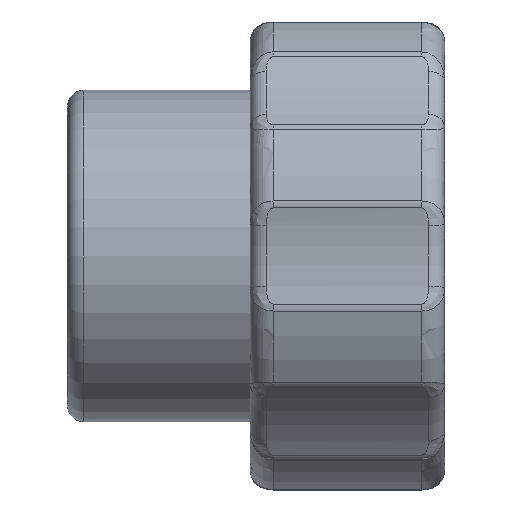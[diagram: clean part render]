
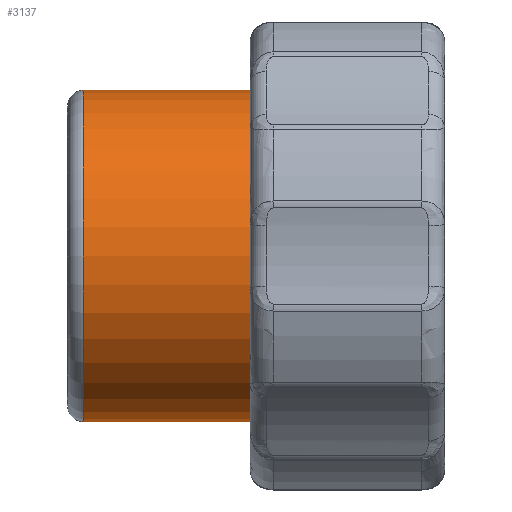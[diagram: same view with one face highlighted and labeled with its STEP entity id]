
A CAD part, left-side view. The second image highlights one B-rep face of the part: STEP entity #3137.
In plain terms, the highlighted cylindrical face has radius 7.25 mm (diameter 14.5 mm), a partial arc.
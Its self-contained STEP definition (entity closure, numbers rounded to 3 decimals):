
#545 = DIRECTION ( 'NONE',  ( 0., -1., 0. ) ) ;
#695 = LINE ( 'NONE', #3204, #3327 ) ;
#726 = CARTESIAN_POINT ( 'NONE',  ( 0., 2., -7.25 ) ) ;
#728 = CARTESIAN_POINT ( 'NONE',  ( 0., 2., 0. ) ) ;
#831 = CARTESIAN_POINT ( 'NONE',  ( 0., 2., 7.25 ) ) ;
#1460 = CARTESIAN_POINT ( 'NONE',  ( 0., 15.8, 0. ) ) ;
#1466 = EDGE_CURVE ( 'NONE', #5674, #2244, #4747, .T. ) ;
#1666 = FACE_OUTER_BOUND ( 'NONE', #1830, .T. ) ;
#1695 = EDGE_CURVE ( 'NONE', #2241, #6319, #3569, .T. ) ;
#1781 = EDGE_CURVE ( 'NONE', #2241, #5674, #695, .T. ) ;
#1830 = EDGE_LOOP ( 'NONE', ( #2728, #5309, #2585, #4948 ) ) ;
#1871 = EDGE_CURVE ( 'NONE', #6319, #2244, #3166, .T. ) ;
#2095 = CARTESIAN_POINT ( 'NONE',  ( 0., 15.8, -7.25 ) ) ;
#2196 = DIRECTION ( 'NONE',  ( 0., 0., -1. ) ) ;
#2241 = VERTEX_POINT ( 'NONE', #2296 ) ;
#2244 = VERTEX_POINT ( 'NONE', #726 ) ;
#2296 = CARTESIAN_POINT ( 'NONE',  ( 0., 15.8, 7.25 ) ) ;
#2585 = ORIENTED_EDGE ( 'NONE', *, *, #1871, .T. ) ;
#2615 = DIRECTION ( 'NONE',  ( 0., -1., 0. ) ) ;
#2728 = ORIENTED_EDGE ( 'NONE', *, *, #1781, .F. ) ;
#3137 = ADVANCED_FACE ( 'NONE', ( #1666 ), #4322, .T. ) ;
#3166 = LINE ( 'NONE', #3527, #4598 ) ;
#3193 = DIRECTION ( 'NONE',  ( 0., -1., 0. ) ) ;
#3204 = CARTESIAN_POINT ( 'NONE',  ( 0., 0., 7.25 ) ) ;
#3327 = VECTOR ( 'NONE', #545, 1000. ) ;
#3507 = CARTESIAN_POINT ( 'NONE',  ( 0., 0., 0. ) ) ;
#3527 = CARTESIAN_POINT ( 'NONE',  ( 0., 0., -7.25 ) ) ;
#3569 = CIRCLE ( 'NONE', #6076, 7.25 ) ;
#4322 = CYLINDRICAL_SURFACE ( 'NONE', #6819, 7.25 ) ;
#4431 = AXIS2_PLACEMENT_3D ( 'NONE', #728, #2615, #2196 ) ;
#4591 = DIRECTION ( 'NONE',  ( 0., -1., 0. ) ) ;
#4598 = VECTOR ( 'NONE', #4611, 1000. ) ;
#4611 = DIRECTION ( 'NONE',  ( 0., -1., 0. ) ) ;
#4747 = CIRCLE ( 'NONE', #4431, 7.25 ) ;
#4948 = ORIENTED_EDGE ( 'NONE', *, *, #1466, .F. ) ;
#5138 = DIRECTION ( 'NONE',  ( 0., 0., -1. ) ) ;
#5309 = ORIENTED_EDGE ( 'NONE', *, *, #1695, .T. ) ;
#5650 = DIRECTION ( 'NONE',  ( 0., 0., -1. ) ) ;
#5674 = VERTEX_POINT ( 'NONE', #831 ) ;
#6076 = AXIS2_PLACEMENT_3D ( 'NONE', #1460, #3193, #5138 ) ;
#6319 = VERTEX_POINT ( 'NONE', #2095 ) ;
#6819 = AXIS2_PLACEMENT_3D ( 'NONE', #3507, #4591, #5650 ) ;
